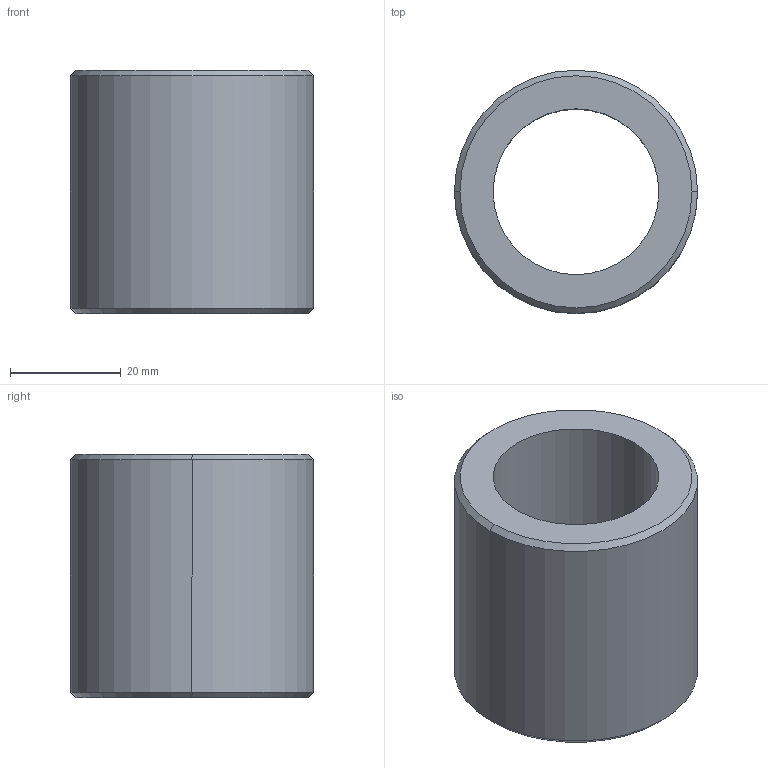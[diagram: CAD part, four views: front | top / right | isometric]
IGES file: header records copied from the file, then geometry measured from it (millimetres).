
Start section: 3D InterOp IGES (Version 21 0 1), Spatial Corp. Copyright (c) 1999-2007.
Global section: file name: DB-30.igs; native system: Spatial Corp.; preprocessor: 3D InterOp GENERIC/IGES 3.0; author: Noname; organization: Noname; date: 20220208.162802; units: millimetre
Bounding box: 44 x 44 x 44 mm (x, y, z)
Surface area: 11691.8 mm2 (no closed solid volume)
Topology: 0 solids, 0 shells, 10 faces, 40 edges, 40 vertices
Faces by surface type: revolution 8, extrusion 2
